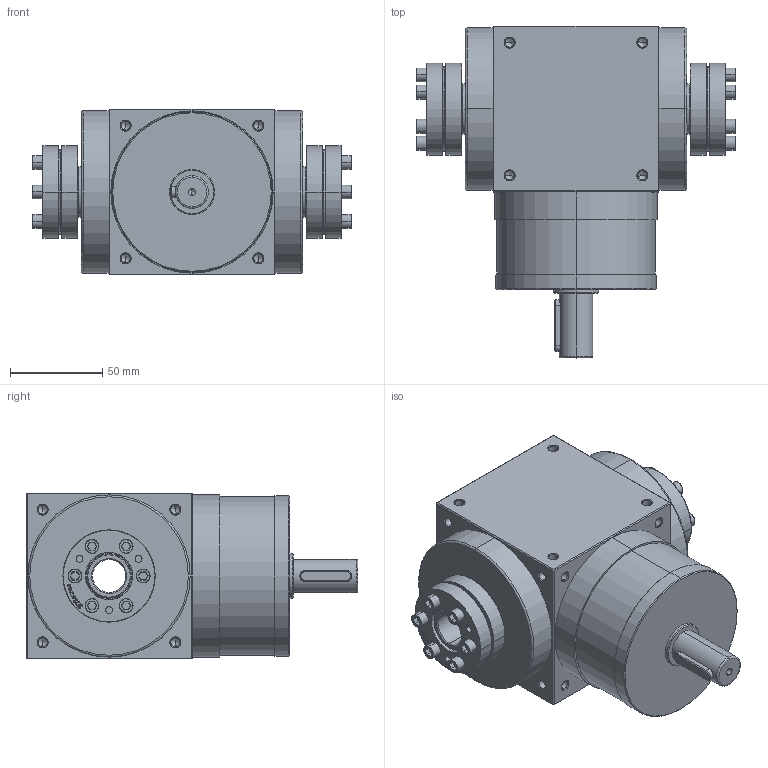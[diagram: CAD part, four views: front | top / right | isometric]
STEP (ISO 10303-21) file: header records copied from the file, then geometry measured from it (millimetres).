
FILE_DESCRIPTION (( 'STEP AP203' ), '1' );
FILE_NAME ('AT090-C-001.STEP', '2019-11-04T09:09:38', ( 'User' ), ( 'Far123' ), 'SwSTEP 2.0', 'SolidWorks 2015', '' );
FILE_SCHEMA (( 'CONFIG_CONTROL_DESIGN' ));
Length unit declared in the file: millimetre
Products named in the file (3): 83_24x50; AT090-C-001; AT090-C-L1
Assembly tree (3 placements, depth 2):
  AT090-C-001
    AT090-C-L1
    83_24x50  x2
Bounding box: 173 x 180 x 90 mm (x, y, z)
Volume: 1261135.1 mm3; surface area: 122812.8 mm2
Topology: 21 solids, 21 shells, 1066 faces, 2558 edges, 1531 vertices
Faces by surface type: cylinder 458, plane 262, cone 252, bspline 88, torus 6
Entity records: 21231 total; most frequent: CARTESIAN_POINT 5780, ORIENTED_EDGE 3196, DIRECTION 3186, EDGE_CURVE 1598, AXIS2_PLACEMENT_3D 1223, VERTEX_POINT 969, EDGE_LOOP 775, VECTOR 740
